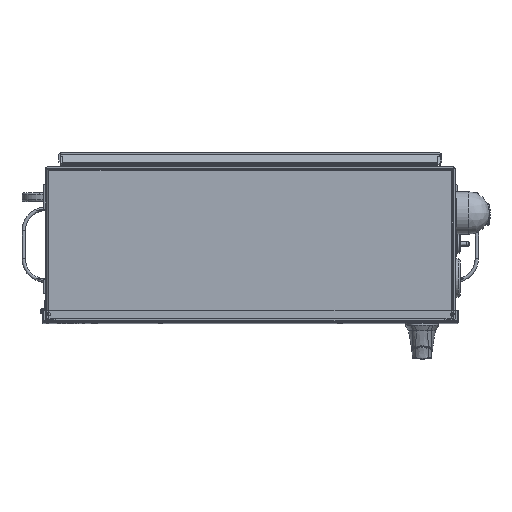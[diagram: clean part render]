
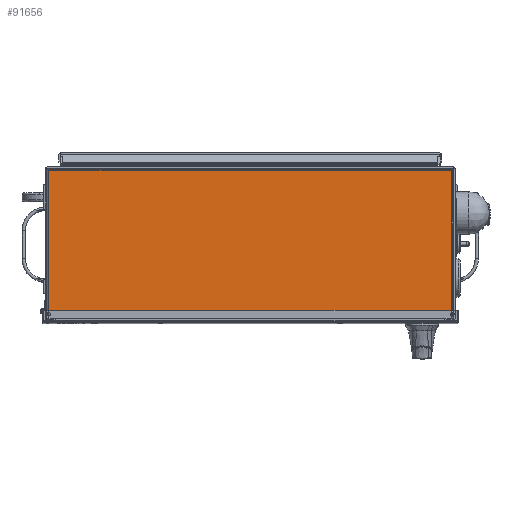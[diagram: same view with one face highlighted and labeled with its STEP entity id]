
A CAD part, top view. The second image highlights one B-rep face of the part: STEP entity #91656.
In plain terms, the highlighted planar face has unit normal (0, 0, 1).
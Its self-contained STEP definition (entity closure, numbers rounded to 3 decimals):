
#6983=LINE('',#128430,#13536);
#6984=LINE('',#128432,#13537);
#6985=LINE('',#128434,#13538);
#6986=LINE('',#128436,#13539);
#6987=LINE('',#128438,#13540);
#6988=LINE('',#128439,#13541);
#13536=VECTOR('',#105317,39.37);
#13537=VECTOR('',#105318,39.37);
#13538=VECTOR('',#105319,39.37);
#13539=VECTOR('',#105320,39.37);
#13540=VECTOR('',#105321,39.37);
#13541=VECTOR('',#105322,39.37);
#20089=PLANE('',#97018);
#21962=FACE_OUTER_BOUND('',#27275,.T.);
#27275=EDGE_LOOP('',(#59224,#59225,#59226,#59227,#59228,#59229));
#36816=VERTEX_POINT('',#128428);
#36817=VERTEX_POINT('',#128429);
#36818=VERTEX_POINT('',#128431);
#36819=VERTEX_POINT('',#128433);
#36820=VERTEX_POINT('',#128435);
#36821=VERTEX_POINT('',#128437);
#45444=EDGE_CURVE('',#36816,#36817,#6983,.T.);
#45445=EDGE_CURVE('',#36817,#36818,#6984,.T.);
#45446=EDGE_CURVE('',#36818,#36819,#6985,.T.);
#45447=EDGE_CURVE('',#36819,#36820,#6986,.T.);
#45448=EDGE_CURVE('',#36820,#36821,#6987,.T.);
#45449=EDGE_CURVE('',#36821,#36816,#6988,.T.);
#59224=ORIENTED_EDGE('',*,*,#45444,.T.);
#59225=ORIENTED_EDGE('',*,*,#45445,.T.);
#59226=ORIENTED_EDGE('',*,*,#45446,.T.);
#59227=ORIENTED_EDGE('',*,*,#45447,.T.);
#59228=ORIENTED_EDGE('',*,*,#45448,.T.);
#59229=ORIENTED_EDGE('',*,*,#45449,.T.);
#91656=ADVANCED_FACE('',(#21962),#20089,.T.);
#97018=AXIS2_PLACEMENT_3D('',#128427,#105315,#105316);
#105315=DIRECTION('center_axis',(0.,0.,
1.));
#105316=DIRECTION('ref_axis',(-1.,0.,0.));
#105317=DIRECTION('',(1.,0.,0.));
#105318=DIRECTION('',(1.,0.,0.));
#105319=DIRECTION('',(1.,0.,0.));
#105320=DIRECTION('',(0.,1.,0.));
#105321=DIRECTION('',(-1.,0.,0.));
#105322=DIRECTION('',(0.,-1.,0.));
#128427=CARTESIAN_POINT('Origin',(11.837,-0.163,18.));
#128428=CARTESIAN_POINT('',(-11.798,-8.887,18.));
#128429=CARTESIAN_POINT('',(-11.403,-8.887,18.));
#128430=CARTESIAN_POINT('',(-11.837,-8.887,18.));
#128431=CARTESIAN_POINT('',(11.403,-8.887,18.));
#128432=CARTESIAN_POINT('',(-11.403,-8.887,18.));
#128433=CARTESIAN_POINT('',(11.798,-8.887,18.));
#128434=CARTESIAN_POINT('',(-11.837,-8.887,18.));
#128435=CARTESIAN_POINT('',(11.798,-0.202,18.));
#128436=CARTESIAN_POINT('',(11.798,-8.887,18.));
#128437=CARTESIAN_POINT('',(-11.798,-0.202,18.));
#128438=CARTESIAN_POINT('',(11.837,-0.202,18.));
#128439=CARTESIAN_POINT('',(-11.798,-0.202,18.));
